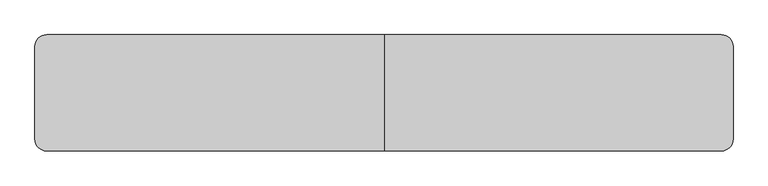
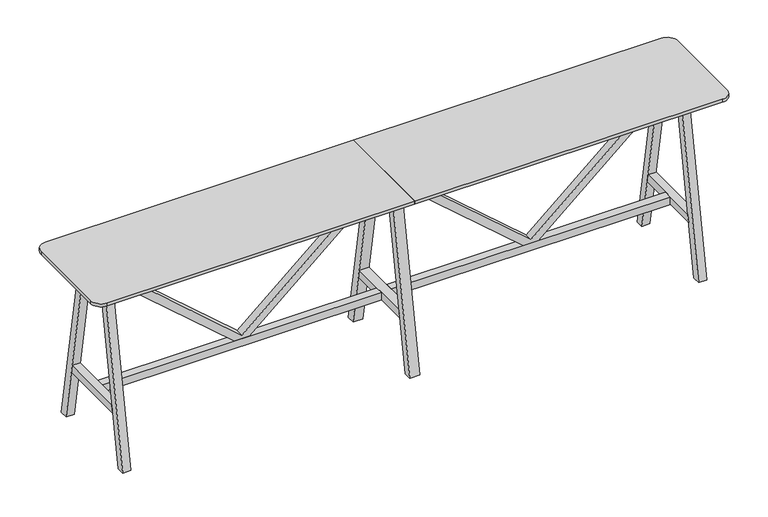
"""IFC4 building model written with IfcOpenShell, lengths in millimetres: furniture geometry, BDG_BossDesign_Tbls_AgentTables6Legs : AGE-HT-6L-3600-600-3D."""

from ifc_helpers import new_model, si_unit, point, frame, frame_2d, origin, place, context, project, spatial, polyline, circle_curve, trimmed, segment, composite_curve, outline, extrude, source, transform, mapped, element, save


def furniture_de72b87b(model_context):
    return source(origin(), model_context, "Body", "SweptSolid", [
        extrude(outline(polyline([(345.0, 774.0823957), (345.0, 858.4176043), (992.0, 1605.0), (1032.0, 1605.0), (1032.0, 1585.0), (365.0, 816.25), (1032.0, 47.5), (1032.0, 27.5), (992.0, 27.5), (345.0, 774.0823957)])), frame((0.0, -22.5000305, 0.0), z_axis=(0.0, 1.0, 0.0), x_axis=(0.0, 0.0, 1.0)), (0.0, 0.0, 1.0), 45.000061),
        extrude(outline(polyline([(345.0, -774.0823957), (992.0, -27.5), (1032.0, -27.5), (1032.0, -47.5), (365.0, -816.25), (1032.0, -1585.0), (1032.0, -1605.0), (992.0, -1605.0), (345.0, -858.4176043), (345.0, -774.0823957)])), frame((0.0, -22.5000305, 0.0), z_axis=(0.0, 1.0, 0.0), x_axis=(0.0, 0.0, 1.0)), (0.0, 0.0, 1.0), 45.000061),
        extrude(outline(polyline([(300.0, 0.0), (254.9999949, 0.0), (85.5, 970.0), (130.5000051, 970.0), (300.0, 0.0)])), frame((-27.5, 0.0, 0.0), z_axis=(1.0, 0.0, 0.0), x_axis=(0.0, 1.0, 0.0)), (0.0, 0.0, 1.0), 55.0),
        extrude(outline(polyline([(-300.0, 0.0), (-130.5000051, 970.0), (-85.5, 970.0), (-254.9999949, 0.0), (-300.0, 0.0)])), frame((-27.5, 0.0, 0.0), z_axis=(1.0, 0.0, 0.0), x_axis=(0.0, 1.0, 0.0)), (0.0, 0.0, 1.0), 55.0),
        extrude(outline(polyline([(202.5773161, 300.0), (-202.5773161, 300.0), (-194.7139143, 345.0), (194.7139143, 345.0), (202.5773161, 300.0)])), frame((-27.5, 0.0, 0.0), z_axis=(1.0, 0.0, 0.0), x_axis=(0.0, 1.0, 0.0)), (0.0, 0.0, 1.0), 55.0),
        extrude(outline(composite_curve([segment(polyline([(0.0, 300.0), (0.0, -300.0), (-1740.0, -300.0)]), True, "CONTINUOUS"), segment(trimmed(circle_curve(frame_2d((-1740.0, -240.0)), 60.0), [point((-1740.0, -300.0))], [point((-1800.0, -240.0))], False, "CARTESIAN"), True, "CONTINUOUS"), segment(polyline([(-1800.0, -240.0), (-1800.0, 240.0)]), True, "CONTINUOUS"), segment(trimmed(circle_curve(frame_2d((-1740.0, 240.0)), 60.0), [point((-1800.0, 240.0))], [point((-1740.0, 300.0))], False, "CARTESIAN"), True, "CONTINUOUS"), segment(polyline([(-1740.0, 300.0), (0.0, 300.0)]), True, "CONTINUOUS")], self_intersect=False)), frame((0.0, 0.0, 1032.0), z_axis=(0.0, 0.0, 1.0), x_axis=(1.0, 0.0, 0.0)), (0.0, 0.0, 1.0), 18.0),
        extrude(outline(polyline([(-194.7139143, 345.0), (194.7139143, 345.0), (202.5773161, 300.0), (-202.5773161, 300.0), (-194.7139143, 345.0)])), frame((1605.0, 0.0, 0.0), z_axis=(1.0, 0.0, 0.0), x_axis=(0.0, 1.0, 0.0)), (0.0, 0.0, 1.0), 45.0),
        extrude(outline(polyline([(300.0, 0.0), (254.9999949, 0.0), (85.5, 970.0), (130.5000051, 970.0), (300.0, 0.0)])), frame((-1650.0, 0.0, 0.0), z_axis=(1.0, 0.0, 0.0), x_axis=(0.0, 1.0, 0.0)), (0.0, 0.0, 1.0), 45.0),
        extrude(outline(polyline([(-300.0, 0.0), (-130.5000051, 970.0), (-85.5, 970.0), (-254.9999949, 0.0), (-300.0, 0.0)])), frame((-1650.0, 0.0, 0.0), z_axis=(1.0, 0.0, 0.0), x_axis=(0.0, 1.0, 0.0)), (0.0, 0.0, 1.0), 45.0),
        extrude(outline(polyline([(-194.7139143, 345.0), (194.7139143, 345.0), (202.5773161, 300.0), (-202.5773161, 300.0), (-194.7139143, 345.0)])), frame((-1650.0, 0.0, 0.0), z_axis=(1.0, 0.0, 0.0), x_axis=(0.0, 1.0, 0.0)), (0.0, 0.0, 1.0), 45.0),
        extrude(outline(polyline([(-126.6006165, 944.973938), (-104.2770691, 1032.0), (-79.5, 1032.0), (-101.8235474, 944.973938), (-126.6006165, 944.973938)])), frame((-1605.0, 0.0, 0.0), z_axis=(1.0, 0.0, 0.0), x_axis=(0.0, 1.0, 0.0)), (0.0, 0.0, 1.0), 3210.0),
        extrude(outline(polyline([(126.6006165, 944.973938), (101.8235474, 944.973938), (79.5, 1032.0), (104.2770691, 1032.0), (126.6006165, 944.973938)])), frame((-1605.0, 0.0, 0.0), z_axis=(1.0, 0.0, 0.0), x_axis=(0.0, 1.0, 0.0)), (0.0, 0.0, 1.0), 3210.0),
        extrude(outline(polyline([(299.7999878, 0.0), (254.7999827, 0.0), (85.5, 970.0), (130.5000051, 970.0), (299.7999878, 0.0)])), frame((1605.0, 0.0, 0.0), z_axis=(1.0, 0.0, 0.0), x_axis=(0.0, 1.0, 0.0)), (0.0, 0.0, 1.0), 45.0),
        extrude(outline(polyline([(-299.7999878, 0.0), (-130.5000051, 970.0), (-85.5, 970.0), (-254.7999827, 0.0), (-299.7999878, 0.0)])), frame((1605.0, 0.0, 0.0), z_axis=(1.0, 0.0, 0.0), x_axis=(0.0, 1.0, 0.0)), (0.0, 0.0, 1.0), 45.0),
        extrude(outline(polyline([(-27.5, 22.5000305), (-27.5, -22.5000305), (-1605.0, -22.5000305), (-1605.0, 22.5000305), (-27.5, 22.5000305)])), frame((0.0, 0.0, 300.0), z_axis=(0.0, 0.0, 1.0), x_axis=(1.0, 0.0, 0.0)), (0.0, 0.0, 1.0), 45.0),
        extrude(outline(polyline([(27.5, -22.5000305), (27.5, 22.5000305), (1605.0, 22.5000305), (1605.0, -22.5000305), (27.5, -22.5000305)])), frame((0.0, 0.0, 300.0), z_axis=(0.0, 0.0, 1.0), x_axis=(1.0, 0.0, 0.0)), (0.0, 0.0, 1.0), 45.0),
        extrude(outline(composite_curve([segment(trimmed(circle_curve(frame_2d((1740.0, 240.0)), 60.0), [point((1740.0, 300.0))], [point((1800.0, 240.0))], False, "CARTESIAN"), True, "CONTINUOUS"), segment(polyline([(1800.0, 240.0), (1800.0, -240.0)]), True, "CONTINUOUS"), segment(trimmed(circle_curve(frame_2d((1740.0, -240.0)), 60.0), [point((1800.0, -240.0))], [point((1740.0, -300.0))], False, "CARTESIAN"), True, "CONTINUOUS"), segment(polyline([(1740.0, -300.0), (0.0, -300.0), (0.0, 300.0), (1740.0, 300.0)]), True, "CONTINUOUS")], self_intersect=False)), frame((0.0, 0.0, 1032.0), z_axis=(0.0, 0.0, 1.0), x_axis=(1.0, 0.0, 0.0)), (0.0, 0.0, 1.0), 18.0),
    ])


if __name__ == "__main__":
    model = new_model("IFC4")
    model_context = context("Model", 3, world=origin())
    ifc_project = project(units=[si_unit("LENGTHUNIT", "METRE", prefix="MILLI")], contexts=[model_context])
    site = spatial("IfcSite", under=ifc_project)
    building = spatial("IfcBuilding", under=site)
    placement = place(None, origin())
    furniture_shape = furniture_de72b87b(model_context)
    element("IfcFurniture", 1, ObjectType="BDG_BossDesign_Tbls_AgentTables6Legs : AGE-HT-6L-3600-600-3D", at=placement, inside=building, context=model_context, shape_type="MappedRepresentation", body=[
        mapped(furniture_shape, transform((0.0, 0.0, 0.0), x_axis=(1.0, 0.0, 0.0), y_axis=(0.0, 1.0, 0.0), z_axis=(0.0, 0.0, 1.0))),
    ])
    save(model, "model.ifc")
